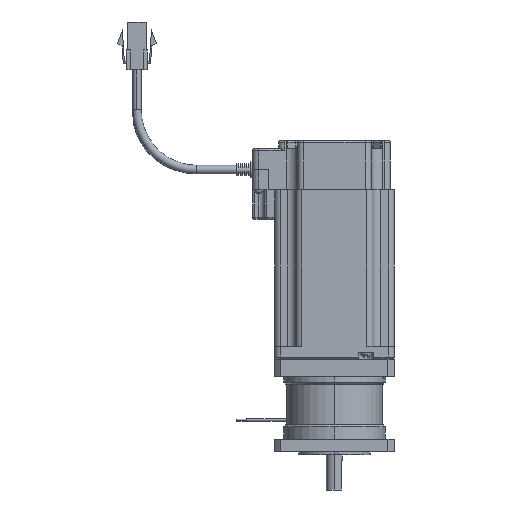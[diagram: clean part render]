
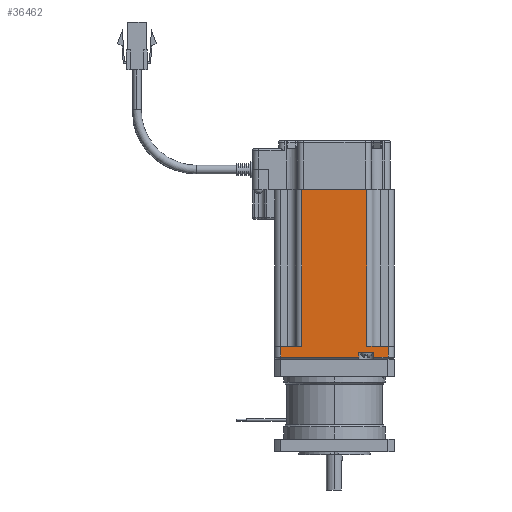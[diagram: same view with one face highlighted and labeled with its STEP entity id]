
A CAD part, left-side view. The second image highlights one B-rep face of the part: STEP entity #36462.
In plain terms, the highlighted planar face has unit normal (-1, 0, 0) as drawn and (1, 0, 0) by its records, which use the part's own axes.
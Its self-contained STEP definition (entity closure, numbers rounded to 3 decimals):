
#620 = CARTESIAN_POINT ( 'NONE',  ( 92.176, 212.692, -211. ) ) ;
#2922 = AXIS2_PLACEMENT_3D ( 'NONE', #10001, #10009, #10010 ) ;
#3817 = DIRECTION ( 'NONE',  ( 0., 1., 0. ) ) ;
#3818 = CARTESIAN_POINT ( 'NONE',  ( 92.176, 0., -127. ) ) ;
#3824 = DIRECTION ( 'NONE',  ( 0., 0., -1. ) ) ;
#3825 = CARTESIAN_POINT ( 'NONE',  ( 92.176, 169.392, -212. ) ) ;
#3831 = DIRECTION ( 'NONE',  ( 0., 0., -1. ) ) ;
#3832 = CARTESIAN_POINT ( 'NONE',  ( 92.176, 201.992, -212. ) ) ;
#3880 = DIRECTION ( 'NONE',  ( 0., -1., 0. ) ) ;
#3882 = CARTESIAN_POINT ( 'NONE',  ( 92.176, 155.692, -205.7 ) ) ;
#3893 = DIRECTION ( 'NONE',  ( 0., 0., -1. ) ) ;
#3895 = CARTESIAN_POINT ( 'NONE',  ( 92.176, 158.692, -212. ) ) ;
#4046 = CARTESIAN_POINT ( 'NONE',  ( 92.176, 212.692, -212. ) ) ;
#4050 = DIRECTION ( 'NONE',  ( 0., 0., 1. ) ) ;
#4066 = CARTESIAN_POINT ( 'NONE',  ( 92.176, 155.692, -205.7 ) ) ;
#4071 = DIRECTION ( 'NONE',  ( 0., -1., 0. ) ) ;
#4073 = DIRECTION ( 'NONE',  ( 0., 1., 0. ) ) ;
#4074 = CARTESIAN_POINT ( 'NONE',  ( 92.176, 155.692, -211. ) ) ;
#4079 = DIRECTION ( 'NONE',  ( 0., 0., 1. ) ) ;
#4080 = DIRECTION ( 'NONE',  ( 0., 1., 0. ) ) ;
#4082 = CARTESIAN_POINT ( 'NONE',  ( 92.176, 155.692, -208.5 ) ) ;
#4085 = CARTESIAN_POINT ( 'NONE',  ( 92.176, 197.892, -212. ) ) ;
#4087 = CARTESIAN_POINT ( 'NONE',  ( 92.176, 155.692, -211. ) ) ;
#4113 = DIRECTION ( 'NONE',  ( 0., 0., -1. ) ) ;
#4116 = DIRECTION ( 'NONE',  ( 0., 1., 0. ) ) ;
#8113 = VERTEX_POINT ( 'NONE', #32483 ) ;
#8120 = VERTEX_POINT ( 'NONE', #32476 ) ;
#8126 = VERTEX_POINT ( 'NONE', #32470 ) ;
#8127 = VERTEX_POINT ( 'NONE', #32469 ) ;
#8134 = VERTEX_POINT ( 'NONE', #32462 ) ;
#8146 = VERTEX_POINT ( 'NONE', #32450 ) ;
#8178 = VERTEX_POINT ( 'NONE', #32418 ) ;
#8179 = VERTEX_POINT ( 'NONE', #32417 ) ;
#8182 = VERTEX_POINT ( 'NONE', #32414 ) ;
#8193 = VERTEX_POINT ( 'NONE', #32403 ) ;
#8195 = VERTEX_POINT ( 'NONE', #32401 ) ;
#10001 = CARTESIAN_POINT ( 'NONE',  ( 92.176, 155.692, -212. ) ) ;
#10006 = PLANE ( 'NONE',  #2922 ) ;
#10009 = DIRECTION ( 'NONE',  ( 1., 0., 0. ) ) ;
#10010 = DIRECTION ( 'NONE',  ( 0., 0., -1. ) ) ;
#12048 = EDGE_CURVE ( 'NONE', #8193, #8178, #18781, .T. ) ;
#12050 = EDGE_CURVE ( 'NONE', #8178, #8182, #18757, .T. ) ;
#12052 = EDGE_CURVE ( 'NONE', #8182, #8195, #18799, .T. ) ;
#12054 = EDGE_CURVE ( 'NONE', #8195, #8179, #18777, .T. ) ;
#12055 = EDGE_CURVE ( 'NONE', #8179, #20051, #18805, .T. ) ;
#12058 = EDGE_CURVE ( 'NONE', #8113, #8134, #18807, .T. ) ;
#12064 = EDGE_CURVE ( 'NONE', #20051, #8113, #18793, .T. ) ;
#12115 = EDGE_CURVE ( 'NONE', #8126, #8193, #18398, .T. ) ;
#12119 = EDGE_CURVE ( 'NONE', #8146, #8126, #18423, .T. ) ;
#12142 = EDGE_CURVE ( 'NONE', #8127, #8146, #18986, .T. ) ;
#12144 = EDGE_CURVE ( 'NONE', #8120, #8134, #18990, .T. ) ;
#12145 = EDGE_CURVE ( 'NONE', #8127, #8120, #18991, .T. ) ;
#18398 = LINE ( 'NONE', #3895, #18437 ) ;
#18415 = VECTOR ( 'NONE', #3880, 1000. ) ;
#18423 = LINE ( 'NONE', #3882, #18415 ) ;
#18437 = VECTOR ( 'NONE', #3893, 1000. ) ;
#18757 = LINE ( 'NONE', #4085, #18787 ) ;
#18777 = LINE ( 'NONE', #28281, #18811 ) ;
#18779 = VECTOR ( 'NONE', #4116, 1000. ) ;
#18781 = LINE ( 'NONE', #4087, #18779 ) ;
#18787 = VECTOR ( 'NONE', #4079, 1000. ) ;
#18793 = LINE ( 'NONE', #4046, #18830 ) ;
#18795 = VECTOR ( 'NONE', #4080, 1000. ) ;
#18799 = LINE ( 'NONE', #4082, #18795 ) ;
#18805 = LINE ( 'NONE', #4074, #18813 ) ;
#18807 = LINE ( 'NONE', #4066, #18815 ) ;
#18811 = VECTOR ( 'NONE', #4113, 1000. ) ;
#18813 = VECTOR ( 'NONE', #4073, 1000. ) ;
#18815 = VECTOR ( 'NONE', #4071, 1000. ) ;
#18830 = VECTOR ( 'NONE', #4050, 1000. ) ;
#18986 = LINE ( 'NONE', #3825, #18989 ) ;
#18989 = VECTOR ( 'NONE', #3824, 1000. ) ;
#18990 = LINE ( 'NONE', #3832, #18992 ) ;
#18991 = LINE ( 'NONE', #3818, #18994 ) ;
#18992 = VECTOR ( 'NONE', #3831, 1000. ) ;
#18994 = VECTOR ( 'NONE', #3817, 1000. ) ;
#20051 = VERTEX_POINT ( 'NONE', #620 ) ;
#28281 = CARTESIAN_POINT ( 'NONE',  ( 92.176, 205.292, -212. ) ) ;
#31257 = EDGE_LOOP ( 'NONE', ( #38700, #39428, #39623, #39689, #39233, #39254, #39230, #39365, #39371, #39422, #39418, #39248 ) ) ;
#32401 = CARTESIAN_POINT ( 'NONE',  ( 92.176, 205.292, -208.5 ) ) ;
#32403 = CARTESIAN_POINT ( 'NONE',  ( 92.176, 158.692, -211. ) ) ;
#32414 = CARTESIAN_POINT ( 'NONE',  ( 92.176, 197.892, -208.5 ) ) ;
#32417 = CARTESIAN_POINT ( 'NONE',  ( 92.176, 205.292, -211. ) ) ;
#32418 = CARTESIAN_POINT ( 'NONE',  ( 92.176, 197.892, -211. ) ) ;
#32450 = CARTESIAN_POINT ( 'NONE',  ( 92.176, 169.392, -205.7 ) ) ;
#32462 = CARTESIAN_POINT ( 'NONE',  ( 92.176, 201.992, -205.7 ) ) ;
#32469 = CARTESIAN_POINT ( 'NONE',  ( 92.176, 169.392, -127. ) ) ;
#32470 = CARTESIAN_POINT ( 'NONE',  ( 92.176, 158.692, -205.7 ) ) ;
#32476 = CARTESIAN_POINT ( 'NONE',  ( 92.176, 201.992, -127. ) ) ;
#32483 = CARTESIAN_POINT ( 'NONE',  ( 92.176, 212.692, -205.7 ) ) ;
#36462 = ADVANCED_FACE ( 'NONE', ( #37061 ), #10006, .T. ) ;
#37061 = FACE_OUTER_BOUND ( 'NONE', #31257, .T. ) ;
#38700 = ORIENTED_EDGE ( 'NONE', *, *, #12064, .T. ) ;
#39230 = ORIENTED_EDGE ( 'NONE', *, *, #12115, .T. ) ;
#39233 = ORIENTED_EDGE ( 'NONE', *, *, #12142, .T. ) ;
#39248 = ORIENTED_EDGE ( 'NONE', *, *, #12055, .T. ) ;
#39254 = ORIENTED_EDGE ( 'NONE', *, *, #12119, .T. ) ;
#39365 = ORIENTED_EDGE ( 'NONE', *, *, #12048, .T. ) ;
#39371 = ORIENTED_EDGE ( 'NONE', *, *, #12050, .T. ) ;
#39418 = ORIENTED_EDGE ( 'NONE', *, *, #12054, .T. ) ;
#39422 = ORIENTED_EDGE ( 'NONE', *, *, #12052, .T. ) ;
#39428 = ORIENTED_EDGE ( 'NONE', *, *, #12058, .T. ) ;
#39623 = ORIENTED_EDGE ( 'NONE', *, *, #12144, .F. ) ;
#39689 = ORIENTED_EDGE ( 'NONE', *, *, #12145, .F. ) ;
